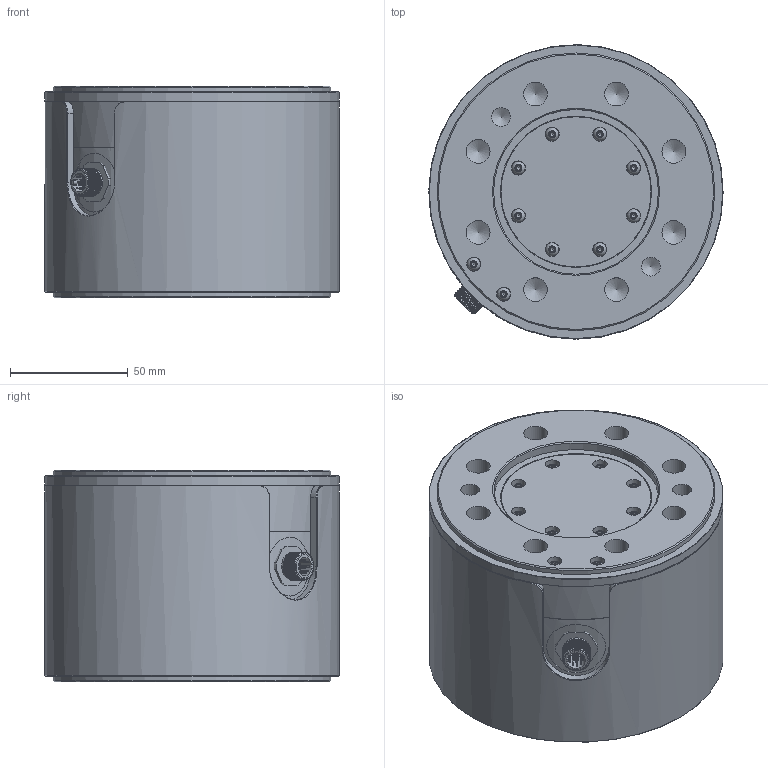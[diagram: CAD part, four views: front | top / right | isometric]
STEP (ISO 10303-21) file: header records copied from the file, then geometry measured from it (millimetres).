
FILE_DESCRIPTION(/* description */ ('Alibre Inc.'),/* implementation_level */ '2;1');
FILE_NAME(/* name */ 'export-499BEF94-4894-4932-9678-7CB882BE5A71',/* time_stamp */ '2019-06-25T11:38:25+02:00',/* author */ (''),/* organization */ (''),/* preprocessor_version */ 'ST-DEVELOPER v17',/* originating_system */ 'Alibre',/* authorisation */ '');
FILE_SCHEMA (('CONFIG_CONTROL_DESIGN'));
Length unit declared in the file: centimetre
Products named in the file (12): ID_1; ID_2; ID_3; ID_4; HI_BN 1593 1568930 hexagon socket button head screw M3x20; HI_BN 1593 1348663 hexagon socket button head screw M3x6; ID_5
Bounding box: 125 x 125 x 90 mm (x, y, z)
Volume: 1042798.5 mm3; surface area: 154751.7 mm2
Topology: 17 solids, 17 shells, 607 faces, 1322 edges, 822 vertices
Faces by surface type: plane 274, cylinder 150, cone 130, bspline 32, torus 11, sphere 10
Full cylindrical faces by diameter (mm): 0.474 x9, 0.496 x3, 0.5 x4, 2.459 x10, 3 x10, 3.3 x10, 6 x12, 8 x6, 10 x3, 10.106 x16, 11.5 x1, 13 x1, 14.376 x1, 25 x1, 45 x1, 47 x2, 64 x2, 70 x2, 117.9 x1, 118 x4, 120 x1, 125 x2
Entity records: 22890 total; most frequent: CARTESIAN_POINT 13036, ORIENTED_EDGE 1608, DIRECTION 1496, EDGE_CURVE 803, FACE_BOUND 694, AXIS2_PLACEMENT_3D 668, EDGE_LOOP 663, VERTEX_POINT 610
